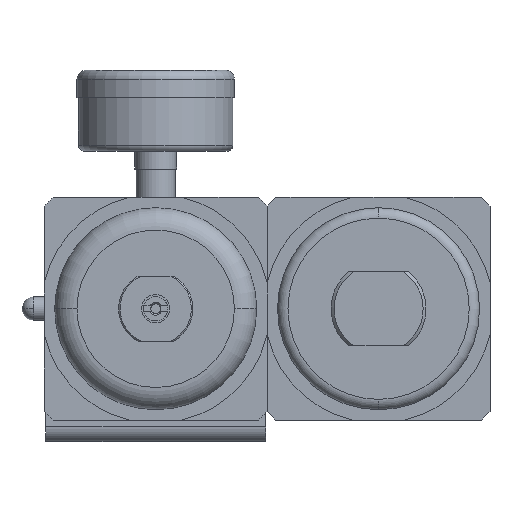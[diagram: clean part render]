
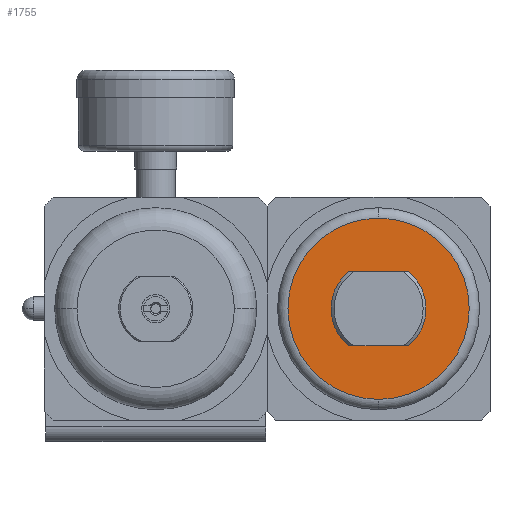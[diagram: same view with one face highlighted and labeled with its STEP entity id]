
A CAD part, front view. The second image highlights one B-rep face of the part: STEP entity #1755.
In plain terms, the highlighted planar face has unit normal (0, -1, 0).
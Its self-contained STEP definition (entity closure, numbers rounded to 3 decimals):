
#67 = FACE_OUTER_BOUND ( 'NONE', #15639, .T. ) ;
#519 = EDGE_CURVE ( 'NONE', #3511, #10025, #12691, .T. ) ;
#832 = CIRCLE ( 'NONE', #4669, 16. ) ;
#868 = EDGE_LOOP ( 'NONE', ( #15198, #9653, #16784, #1076 ) ) ;
#1076 = ORIENTED_EDGE ( 'NONE', *, *, #5235, .T. ) ;
#1527 = CARTESIAN_POINT ( 'NONE',  ( 68., -140.2, 0. ) ) ;
#1721 = DIRECTION ( 'NONE',  ( 1., 0., 0. ) ) ;
#1755 = ADVANCED_FACE ( 'NONE', ( #67, #9199 ), #14693, .F. ) ;
#2518 = CIRCLE ( 'NONE', #13850, 30.5 ) ;
#2602 = CARTESIAN_POINT ( 'NONE',  ( 27.513, -140.2, 12.5 ) ) ;
#3100 = CARTESIAN_POINT ( 'NONE',  ( 47.487, -140.2, -12.5 ) ) ;
#3131 = CARTESIAN_POINT ( 'NONE',  ( 47.487, -140.2, -12.5 ) ) ;
#3233 = EDGE_CURVE ( 'NONE', #12266, #14173, #832, .T. ) ;
#3511 = VERTEX_POINT ( 'NONE', #11832 ) ;
#3838 = VECTOR ( 'NONE', #1721, 1000. ) ;
#4669 = AXIS2_PLACEMENT_3D ( 'NONE', #5736, #11178, #9711 ) ;
#4878 = AXIS2_PLACEMENT_3D ( 'NONE', #1527, #5149, #13329 ) ;
#5149 = DIRECTION ( 'NONE',  ( 0., 1., 0. ) ) ;
#5235 = EDGE_CURVE ( 'NONE', #12266, #12225, #5498, .T. ) ;
#5408 = CARTESIAN_POINT ( 'NONE',  ( 37.5, -140.2, 30.5 ) ) ;
#5498 = LINE ( 'NONE', #7059, #3838 ) ;
#5736 = CARTESIAN_POINT ( 'NONE',  ( 37.5, -140.2, 0. ) ) ;
#5795 = LINE ( 'NONE', #3131, #16057 ) ;
#5903 = CARTESIAN_POINT ( 'NONE',  ( 27.513, -140.2, -12.5 ) ) ;
#6083 = AXIS2_PLACEMENT_3D ( 'NONE', #8942, #6497, #11765 ) ;
#6095 = CARTESIAN_POINT ( 'NONE',  ( 37.5, -140.2, 0. ) ) ;
#6497 = DIRECTION ( 'NONE',  ( 0., -1., 0. ) ) ;
#6580 = DIRECTION ( 'NONE',  ( 0., -1., 0. ) ) ;
#7059 = CARTESIAN_POINT ( 'NONE',  ( 27.513, -140.2, 12.5 ) ) ;
#7392 = EDGE_CURVE ( 'NONE', #10025, #3511, #2518, .T. ) ;
#7972 = CARTESIAN_POINT ( 'NONE',  ( 37.5, -140.2, 0. ) ) ;
#8379 = AXIS2_PLACEMENT_3D ( 'NONE', #7972, #6580, #14511 ) ;
#8614 = DIRECTION ( 'NONE',  ( 0., 0., -1. ) ) ;
#8942 = CARTESIAN_POINT ( 'NONE',  ( 37.5, -140.2, 0. ) ) ;
#9199 = FACE_BOUND ( 'NONE', #868, .T. ) ;
#9653 = ORIENTED_EDGE ( 'NONE', *, *, #10938, .T. ) ;
#9711 = DIRECTION ( 'NONE',  ( 0., 0., -1. ) ) ;
#10025 = VERTEX_POINT ( 'NONE', #5408 ) ;
#10631 = EDGE_CURVE ( 'NONE', #14739, #12225, #12493, .T. ) ;
#10938 = EDGE_CURVE ( 'NONE', #14739, #14173, #5795, .T. ) ;
#11178 = DIRECTION ( 'NONE',  ( 0., -1., 0. ) ) ;
#11765 = DIRECTION ( 'NONE',  ( 0., 0., -1. ) ) ;
#11832 = CARTESIAN_POINT ( 'NONE',  ( 37.5, -140.2, -30.5 ) ) ;
#12225 = VERTEX_POINT ( 'NONE', #14409 ) ;
#12266 = VERTEX_POINT ( 'NONE', #2602 ) ;
#12347 = DIRECTION ( 'NONE',  ( -1., 0., 0. ) ) ;
#12493 = CIRCLE ( 'NONE', #8379, 16. ) ;
#12691 = CIRCLE ( 'NONE', #6083, 30.5 ) ;
#13329 = DIRECTION ( 'NONE',  ( 1., 0., 0. ) ) ;
#13850 = AXIS2_PLACEMENT_3D ( 'NONE', #6095, #16358, #8614 ) ;
#14173 = VERTEX_POINT ( 'NONE', #5903 ) ;
#14409 = CARTESIAN_POINT ( 'NONE',  ( 47.487, -140.2, 12.5 ) ) ;
#14415 = ORIENTED_EDGE ( 'NONE', *, *, #519, .T. ) ;
#14511 = DIRECTION ( 'NONE',  ( 0., 0., -1. ) ) ;
#14693 = PLANE ( 'NONE',  #4878 ) ;
#14739 = VERTEX_POINT ( 'NONE', #3100 ) ;
#15198 = ORIENTED_EDGE ( 'NONE', *, *, #10631, .F. ) ;
#15222 = ORIENTED_EDGE ( 'NONE', *, *, #7392, .T. ) ;
#15639 = EDGE_LOOP ( 'NONE', ( #14415, #15222 ) ) ;
#16057 = VECTOR ( 'NONE', #12347, 1000. ) ;
#16358 = DIRECTION ( 'NONE',  ( 0., -1., 0. ) ) ;
#16784 = ORIENTED_EDGE ( 'NONE', *, *, #3233, .F. ) ;
